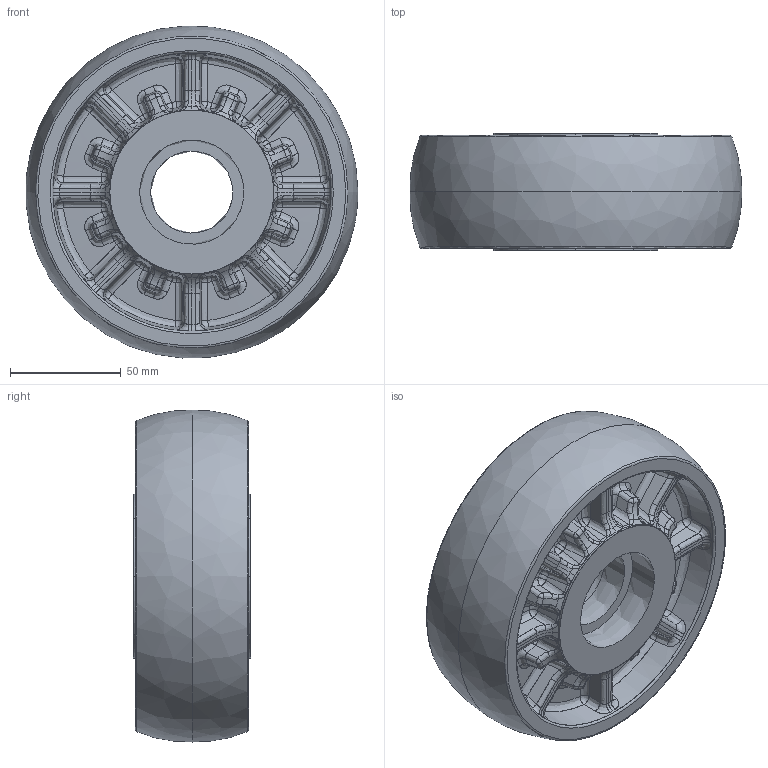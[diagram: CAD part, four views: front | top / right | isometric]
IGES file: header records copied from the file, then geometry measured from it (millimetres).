
Start section: JAMA-IS VERSION  1.0
Global section: file name: E:\tools-models\その他メーカー2\INOAC車輪\7月\ME-150\ME-150W_igs.igs; native system: CAM-TOOL; preprocessor: C3out Version 11.1.1.50212 (2015/02/12); author: NONE; organization: NONE; date: 220722.152621; units: millimetre
Bounding box: 149.81 x 53 x 149.84 mm (x, y, z)
Surface area: 80221 mm2 (no closed solid volume)
Topology: 0 solids, 0 shells, 1120 faces, 6562 edges, 6591 vertices
Faces by surface type: bspline 1120
